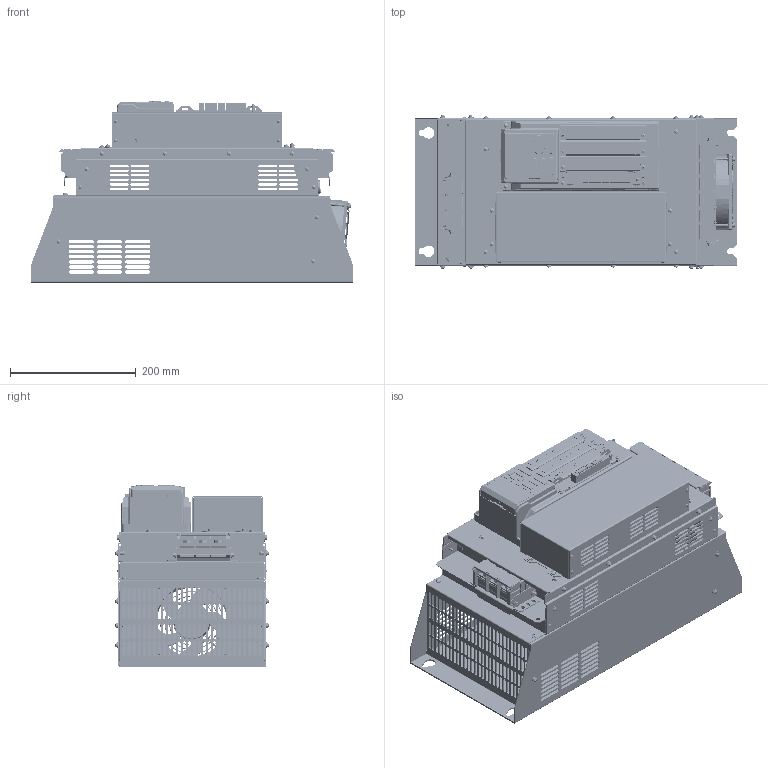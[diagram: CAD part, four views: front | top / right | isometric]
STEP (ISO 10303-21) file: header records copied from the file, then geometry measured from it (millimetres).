
FILE_DESCRIPTION(/* description */ (''),/* implementation_level */ '2;1');
FILE_NAME(/* name */ 'VH6-40~2',/* time_stamp */ '2023-02-23T11:02:27+08:00',/* author */ (''),/* organization */ (''),/* preprocessor_version */ 'ST-DEVELOPER v15',/* originating_system */ '',/* authorisation */ '');
FILE_SCHEMA (('AUTOMOTIVE_DESIGN'));
Products named in the file (28): Document; MANIFOLD_SOLID_BREP__884; MANIFOLD_SOLID_BREP__883; MANIFOLD_SOLID_BREP__882; MANIFOLD_SOLID_BREP__881; MANIFOLD_SOLID_BREP__880; MANIFOLD_SOLID_BREP__879; MANIFOLD_SOLID_BREP__878; MANIFOLD_SOLID_BREP__877; MANIFOLD_SOLID_BREP__876; MANIFOLD_SOLID_BREP__875; MANIFOLD_SOLID_BREP__874; MANIFOLD_SOLID_BREP__873; MANIFOLD_SOLID_BREP__872; MANIFOLD_SOLID_BREP__871; ASM0003_ASM_1_ASM; PRT0001_1; _X2_9AD87AEF53D8989156684E0A534_ASM; MANIFOLD_SOLID_BREP_12887_1_1_1; 15-381-3P_2_1; 15-381-5P-1_2_1; 15-381-2P_6_1; 15-381-5P_4_1; 15EDGKD-381-3P_4_1; M3-10TONGKONGYAMAOLUOZHU_1_1; BANA_17_1; BREP_128_1_1; MANIFOLD_SOLID_BREP_4974_1_1
Assembly tree (37 placements, depth 3):
  Document
    MANIFOLD_SOLID_BREP__884
    MANIFOLD_SOLID_BREP__883
    MANIFOLD_SOLID_BREP__882
    MANIFOLD_SOLID_BREP__881
    MANIFOLD_SOLID_BREP__880
    MANIFOLD_SOLID_BREP__879
    MANIFOLD_SOLID_BREP__878
    MANIFOLD_SOLID_BREP__877
    MANIFOLD_SOLID_BREP__876
    MANIFOLD_SOLID_BREP__875
    MANIFOLD_SOLID_BREP__874
    MANIFOLD_SOLID_BREP__873
    MANIFOLD_SOLID_BREP__872
    MANIFOLD_SOLID_BREP__871
    ASM0003_ASM_1_ASM
      PRT0001_1
    _X2_9AD87AEF53D8989156684E0A534_ASM  x2
      MANIFOLD_SOLID_BREP_12887_1_1_1
    15-381-3P_2_1  x2
    15-381-5P-1_2_1  x2
    15-381-2P_6_1  x2
    15-381-5P_4_1  x2
    15EDGKD-381-3P_4_1  x2
    M3-10TONGKONGYAMAOLUOZHU_1_1  x2
    BANA_17_1  x2
    BREP_128_1_1  x2
    MANIFOLD_SOLID_BREP_4974_1_1  x2
Bounding box: 510 x 244.39 x 287.9 mm (x, y, z)
Volume: 423314.4 mm3; surface area: 2025353.6 mm2
Topology: 41 solids, 7938 shells, 18515 faces, 72597 edges, 62338 vertices
Faces by surface type: bspline 10058, plane 8457
Entity records: 797885 total; most frequent: CARTESIAN_POINT 445953, ORIENTED_EDGE 85596, EDGE_CURVE 64417, VERTEX_POINT 57081, B_SPLINE_CURVE_WITH_KNOTS 45955, EDGE_LOOP 17196, ADVANCED_FACE 15541, FACE_OUTER_BOUND 15541
